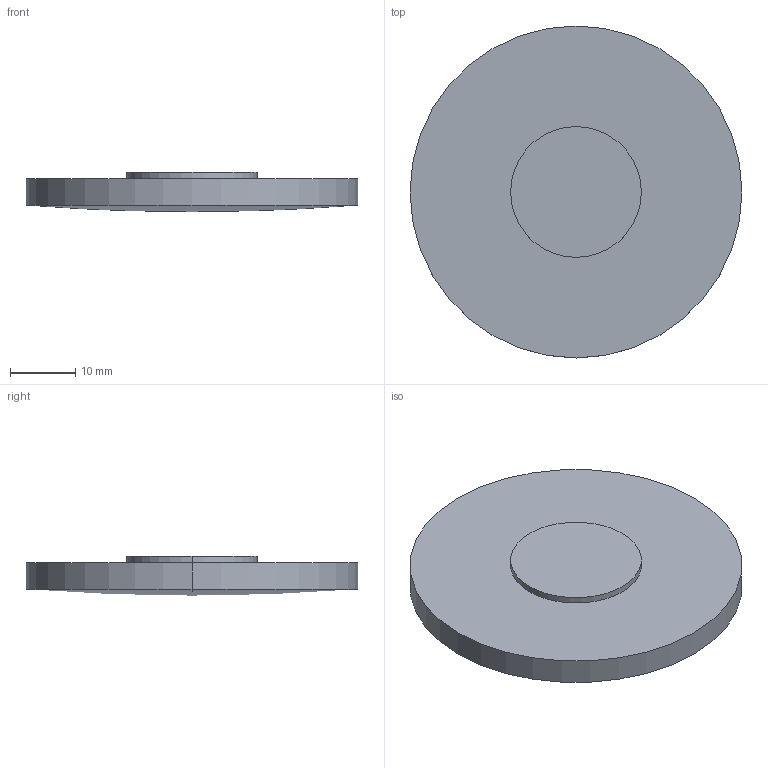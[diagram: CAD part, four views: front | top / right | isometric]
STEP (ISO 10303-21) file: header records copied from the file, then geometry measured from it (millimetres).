
FILE_DESCRIPTION(('STEP AP214'),'1');
FILE_NAME('LLR-51760.STEP','2020-03-09T17:42:05',(' '),(' '),'Spatial InterOp 3D',' ',' ');
FILE_SCHEMA(('AUTOMOTIVE_DESIGN { 1 0 10303 214 1 1 1 1 }'));
Length unit declared in the file: millimetre
Products named in the file (1): 1
Bounding box: 50.8 x 50.8 x 6 mm (x, y, z)
Volume: 9445 mm3; surface area: 5387.8 mm2
Topology: 2 solids, 2 shells, 9 faces, 16 edges, 9 vertices
Faces by surface type: cylinder 4, plane 3, sphere 2
Entity records: 229 total; most frequent: DIRECTION 46, CARTESIAN_POINT 34, ORIENTED_EDGE 28, AXIS2_PLACEMENT_3D 21, EDGE_CURVE 14, CIRCLE 10, ADVANCED_FACE 9, FACE_OUTER_BOUND 9
